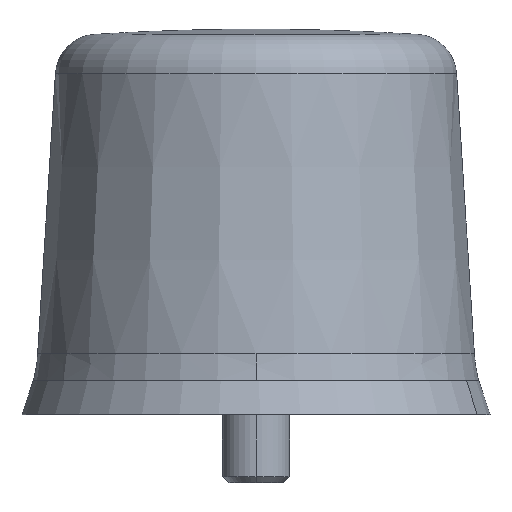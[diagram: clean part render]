
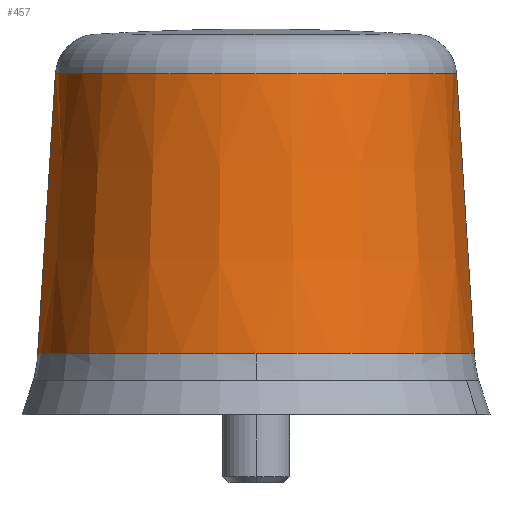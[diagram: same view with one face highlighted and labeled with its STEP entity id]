
A CAD part, left-side view. The second image highlights one B-rep face of the part: STEP entity #457.
In plain terms, the highlighted conical face has half-angle 3.633 degrees and reference radius 52.053 mm.
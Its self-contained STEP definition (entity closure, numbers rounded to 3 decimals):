
#7 = CARTESIAN_POINT ( 'NONE',  ( -0.002, -52.052, 10.055 ) ) ;
#20 = CIRCLE ( 'NONE', #243, 52.053 ) ;
#28 = VERTEX_POINT ( 'NONE', #115 ) ;
#41 = DIRECTION ( 'NONE',  ( 0., -0.063, -0.998 ) ) ;
#88 = DIRECTION ( 'NONE',  ( 0., 0., 1. ) ) ;
#115 = CARTESIAN_POINT ( 'NONE',  ( -0.002, 52.053, 10.055 ) ) ;
#145 = AXIS2_PLACEMENT_3D ( 'NONE', #688, #1266, #491 ) ;
#163 = VERTEX_POINT ( 'NONE', #733 ) ;
#222 = LINE ( 'NONE', #495, #764 ) ;
#228 = ORIENTED_EDGE ( 'NONE', *, *, #598, .T. ) ;
#243 = AXIS2_PLACEMENT_3D ( 'NONE', #805, #503, #501 ) ;
#245 = CIRCLE ( 'NONE', #1086, 52.053 ) ;
#273 = DIRECTION ( 'NONE',  ( 0., 0., -1. ) ) ;
#306 = EDGE_CURVE ( 'NONE', #812, #595, #989, .T. ) ;
#324 = VERTEX_POINT ( 'NONE', #823 ) ;
#431 = CARTESIAN_POINT ( 'NONE',  ( -0.002, -47.816, 76.762 ) ) ;
#457 = ADVANCED_FACE ( 'NONE', ( #1213 ), #959, .T. ) ;
#465 = CARTESIAN_POINT ( 'NONE',  ( -0.002, 0.001, 10.055 ) ) ;
#491 = DIRECTION ( 'NONE',  ( 0., -1., 0. ) ) ;
#495 = CARTESIAN_POINT ( 'NONE',  ( -0.002, 52.053, 10.055 ) ) ;
#501 = DIRECTION ( 'NONE',  ( 0., -1., 0. ) ) ;
#503 = DIRECTION ( 'NONE',  ( 0., 0., 1. ) ) ;
#595 = VERTEX_POINT ( 'NONE', #7 ) ;
#598 = EDGE_CURVE ( 'NONE', #163, #28, #222, .T. ) ;
#606 = EDGE_LOOP ( 'NONE', ( #635, #822, #228, #924, #669 ) ) ;
#628 = CARTESIAN_POINT ( 'NONE',  ( -0.002, -52.052, 10.055 ) ) ;
#635 = ORIENTED_EDGE ( 'NONE', *, *, #306, .F. ) ;
#641 = EDGE_CURVE ( 'NONE', #28, #324, #20, .T. ) ;
#669 = ORIENTED_EDGE ( 'NONE', *, *, #1203, .T. ) ;
#688 = CARTESIAN_POINT ( 'NONE',  ( -0.002, 0.001, 76.762 ) ) ;
#733 = CARTESIAN_POINT ( 'NONE',  ( -0.002, 47.818, 76.762 ) ) ;
#734 = VECTOR ( 'NONE', #41, 1000. ) ;
#754 = DIRECTION ( 'NONE',  ( 0., 1., 0. ) ) ;
#764 = VECTOR ( 'NONE', #1054, 1000. ) ;
#805 = CARTESIAN_POINT ( 'NONE',  ( -0.002, 0.001, 10.055 ) ) ;
#812 = VERTEX_POINT ( 'NONE', #431 ) ;
#822 = ORIENTED_EDGE ( 'NONE', *, *, #943, .F. ) ;
#823 = CARTESIAN_POINT ( 'NONE',  ( -52.054, 0.001, 10.055 ) ) ;
#924 = ORIENTED_EDGE ( 'NONE', *, *, #641, .T. ) ;
#938 = CIRCLE ( 'NONE', #145, 47.817 ) ;
#943 = EDGE_CURVE ( 'NONE', #163, #812, #938, .T. ) ;
#959 = CONICAL_SURFACE ( 'NONE', #1082, 52.053, 0.063 ) ;
#989 = LINE ( 'NONE', #628, #734 ) ;
#1054 = DIRECTION ( 'NONE',  ( 0., 0.063, -0.998 ) ) ;
#1082 = AXIS2_PLACEMENT_3D ( 'NONE', #1260, #273, #754 ) ;
#1086 = AXIS2_PLACEMENT_3D ( 'NONE', #465, #88, #1138 ) ;
#1138 = DIRECTION ( 'NONE',  ( 0., -1., 0. ) ) ;
#1203 = EDGE_CURVE ( 'NONE', #324, #595, #245, .T. ) ;
#1213 = FACE_OUTER_BOUND ( 'NONE', #606, .T. ) ;
#1260 = CARTESIAN_POINT ( 'NONE',  ( -0.002, 0.001, 10.055 ) ) ;
#1266 = DIRECTION ( 'NONE',  ( 0., 0., 1. ) ) ;
